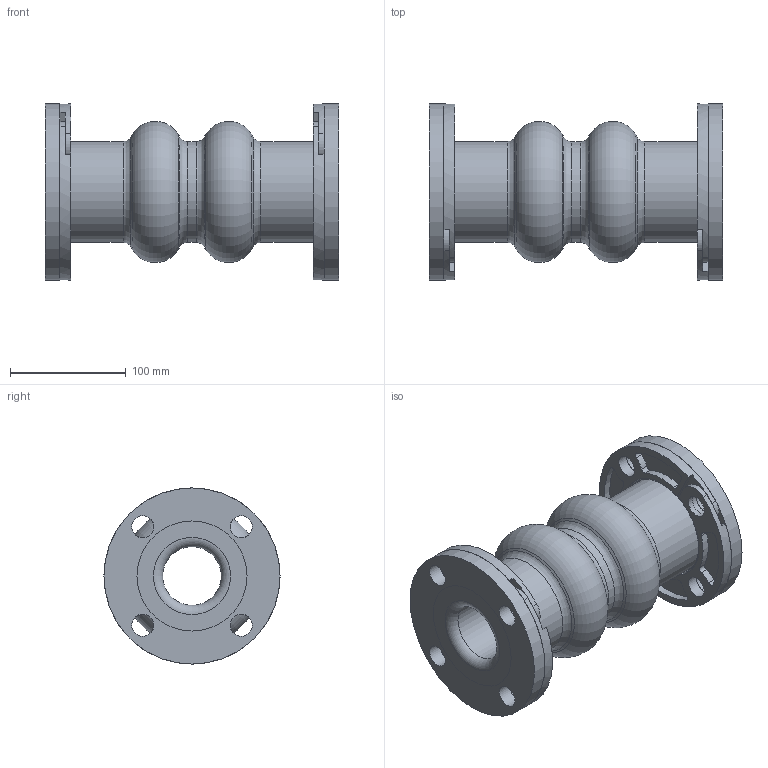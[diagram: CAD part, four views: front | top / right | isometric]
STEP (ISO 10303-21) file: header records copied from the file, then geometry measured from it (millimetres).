
FILE_DESCRIPTION(/* description */ (''),/* implementation_level */ '2;1');
FILE_NAME(/* name */ 'C:\001_Work\Designs\Mercer2014\702 2IDx10FF.stp',/* time_stamp */ '2016-04-10T14:32:58-04:00',/* author */ ('rramoutar'),/* organization */ ('Mason Industries Inc.'),/* preprocessor_version */ 'ST-DEVELOPER v15.6',/* originating_system */ 'Autodesk Inventor 2015',/* authorisation */ '');
FILE_SCHEMA (('CONFIG_CONTROL_DESIGN'));
Length unit declared in the file: inch
Products named in the file (1): 702 2IDx10FF
Bounding box: 254 x 152.4 x 152.4 mm (x, y, z)
Volume: 1702007.4 mm3; surface area: 276752.8 mm2
Topology: 5 solids, 5 shells, 192 faces, 490 edges, 320 vertices
Faces by surface type: cylinder 108, plane 54, torus 22, cone 8
Full cylindrical faces by diameter (mm): 19.05 x20, 50.8 x3, 87.312 x3, 152.4 x2
Entity records: 6112 total; most frequent: CARTESIAN_POINT 1121, DIRECTION 1066, ORIENTED_EDGE 872, AXIS2_PLACEMENT_3D 453, EDGE_CURVE 436, VERTEX_POINT 316, EDGE_LOOP 296, CIRCLE 260
